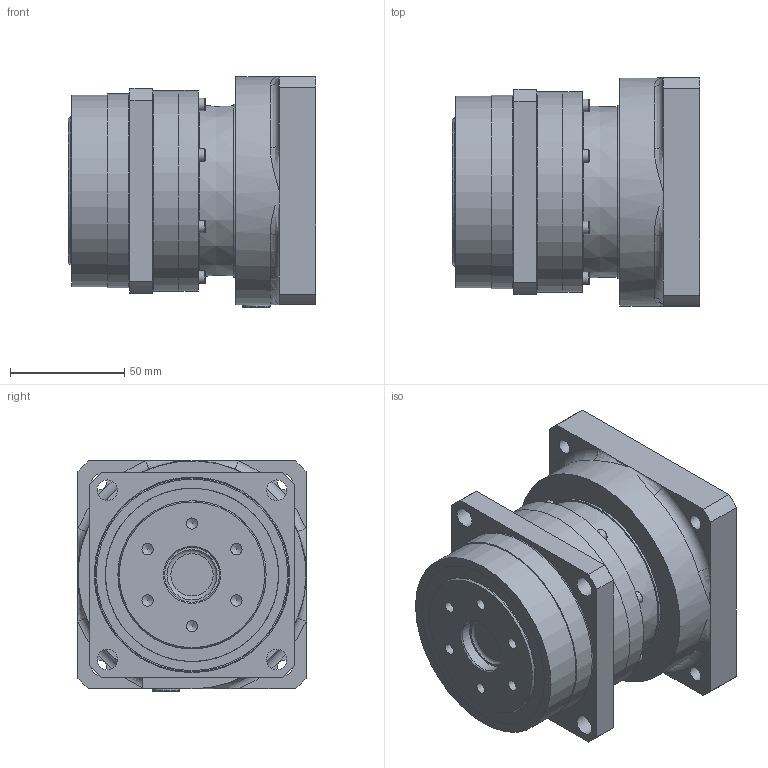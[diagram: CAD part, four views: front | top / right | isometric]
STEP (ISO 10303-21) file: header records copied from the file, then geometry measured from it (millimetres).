
FILE_DESCRIPTION(/* description */ ('ANFX-P120F-1-7B'),/* implementation_level */ '2;1');
FILE_NAME(/* name */ 'C:\Users\ADMINI~1\AppData\Local\Temp\MM579849_ANFX-P120F-1-7B.stp',/* time_stamp */ '2018-06-20T09:30:15+02:00',/* author */ ('Berger'),/* organization */ (''),/* preprocessor_version */ 'ST-DEVELOPER v17',/* originating_system */ 'Autodesk Inventor 2018',/* authorisation */ '');
FILE_SCHEMA (('AUTOMOTIVE_DESIGN { 1 0 10303 214 3 1 1 }'));
Length unit declared in the file: millimetre
Products named in the file (20): MM581710; MMBG0004078; MMCL445LG; MMCM226LG; MAX4840G; MAW8381G; MMBG0004105; MMCH509LG; M204639; M204639-1; M204639-2; M204639-3; M204639-4; M009M003R014NG; M530A30508---G; MMAP6499G; 009M005R014NG; MMCH633LG; 200458; MAW8386G
Assembly tree (45 placements, depth 4):
  MM581710
    MMBG0004078
      MMCL445LG
      MMCM226LG
      MAX4840G
      MAW8381G
    MMBG0004105
      MMCH509LG
      M204639
        M204639-1
        M204639-2
        M204639-3  x2
        M204639-4  x12
      M009M003R014NG  x8
      M530A30508---G
      MMAP6499G
      009M005R014NG
    MMCH633LG
    200458  x8
    MAW8386G
Bounding box: 108.5 x 100 x 101 mm (x, y, z)
Volume: 418267.9 mm3; surface area: 166725.3 mm2
Topology: 84 solids, 84 shells, 617 faces, 1726 edges, 1227 vertices
Faces by surface type: plane 255, cylinder 165, cone 78, torus 60, sphere 53, bspline 6
Full cylindrical faces by diameter (mm): 2 x1, 2.459 x10, 3 x8, 3.4 x8, 4.134 x9, 4.917 x6, 5 x9, 5.5 x17, 6.647 x4, 8.5 x9, 9 x4, 9.8 x1, 10 x1, 10.2 x1, 10.4 x1, 12 x1, 14 x1, 19.5 x1, 24 x2, 28.6 x1, 29 x1, 29.4 x1, 29.6 x1, 30 x2, 32 x1, 34.2 x1, 35 x1, 38.25 x4, 38.85 x2, 40 x1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
Entity records: 14249 total; most frequent: CARTESIAN_POINT 2820, DIRECTION 2508, ORIENTED_EDGE 1982, AXIS2_PLACEMENT_3D 1111, EDGE_CURVE 991, VERTEX_POINT 789, CIRCLE 665, EDGE_LOOP 534
